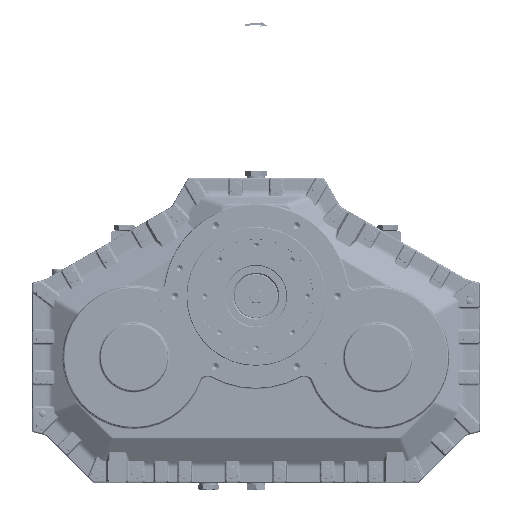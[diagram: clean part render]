
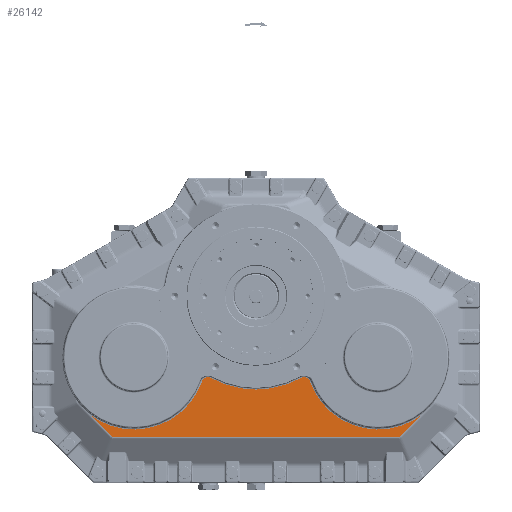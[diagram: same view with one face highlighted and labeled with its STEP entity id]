
A CAD part, top view. The second image highlights one B-rep face of the part: STEP entity #26142.
In plain terms, the highlighted planar face has unit normal (0, 0, 1).
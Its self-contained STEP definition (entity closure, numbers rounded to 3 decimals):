
#22770 = VERTEX_POINT ( 'NONE', #227842 ) ;
#26142 = ADVANCED_FACE ( 'NONE', ( #249591 ), #249737, .F. ) ;
#26146 = EDGE_LOOP ( 'NONE', ( #26151, #26171, #26225, #26233, #26242, #26248, #26261, #26322, #26332, #26334, #26199, #26204 ) ) ;
#26151 = ORIENTED_EDGE ( 'NONE', *, *, #26156, .T. ) ;
#26156 = EDGE_CURVE ( 'NONE', #187259, #26162, #249692, .T. ) ;
#26162 = VERTEX_POINT ( 'NONE', #249661 ) ;
#26171 = ORIENTED_EDGE ( 'NONE', *, *, #26173, .T. ) ;
#26173 = EDGE_CURVE ( 'NONE', #26162, #26221, #249786, .T. ) ;
#26197 = VERTEX_POINT ( 'NONE', #250042 ) ;
#26199 = ORIENTED_EDGE ( 'NONE', *, *, #26201, .T. ) ;
#26201 = EDGE_CURVE ( 'NONE', #26197, #187252, #250004, .T. ) ;
#26204 = ORIENTED_EDGE ( 'NONE', *, *, #187246, .T. ) ;
#26221 = VERTEX_POINT ( 'NONE', #250082 ) ;
#26225 = ORIENTED_EDGE ( 'NONE', *, *, #26227, .T. ) ;
#26227 = EDGE_CURVE ( 'NONE', #26221, #26231, #250274, .T. ) ;
#26231 = VERTEX_POINT ( 'NONE', #250266 ) ;
#26233 = ORIENTED_EDGE ( 'NONE', *, *, #26235, .T. ) ;
#26235 = EDGE_CURVE ( 'NONE', #26231, #26238, #250244, .T. ) ;
#26238 = VERTEX_POINT ( 'NONE', #250371 ) ;
#26242 = ORIENTED_EDGE ( 'NONE', *, *, #26244, .T. ) ;
#26244 = EDGE_CURVE ( 'NONE', #26238, #26245, #250355, .T. ) ;
#26245 = VERTEX_POINT ( 'NONE', #250343 ) ;
#26248 = ORIENTED_EDGE ( 'NONE', *, *, #26253, .T. ) ;
#26253 = EDGE_CURVE ( 'NONE', #26245, #26256, #250330, .T. ) ;
#26256 = VERTEX_POINT ( 'NONE', #250314 ) ;
#26261 = ORIENTED_EDGE ( 'NONE', *, *, #26265, .T. ) ;
#26265 = EDGE_CURVE ( 'NONE', #26256, #22770, #250303, .T. ) ;
#26322 = ORIENTED_EDGE ( 'NONE', *, *, #26323, .T. ) ;
#26323 = EDGE_CURVE ( 'NONE', #22770, #187404, #250820, .T. ) ;
#26332 = ORIENTED_EDGE ( 'NONE', *, *, #187398, .T. ) ;
#26334 = ORIENTED_EDGE ( 'NONE', *, *, #26337, .T. ) ;
#26337 = EDGE_CURVE ( 'NONE', #187412, #26197, #250890, .T. ) ;
#116287 = CARTESIAN_POINT ( 'NONE',  ( 213.306, -206.316, 35. ) ) ;
#116291 = CARTESIAN_POINT ( 'NONE',  ( 212.897, -206.725, 35. ) ) ;
#116298 = CARTESIAN_POINT ( 'NONE',  ( 212.439, -207.035, 35. ) ) ;
#116302 = CARTESIAN_POINT ( 'NONE',  ( 211.935, -207.244, 35. ) ) ;
#116324 =( BOUNDED_CURVE ( )  B_SPLINE_CURVE ( 3, ( #116302, #116298, #116291, #116287 ),
 .UNSPECIFIED., .F., .T. ) 
 B_SPLINE_CURVE_WITH_KNOTS ( ( 4, 4 ),
 ( 0., 0.204 ),
 .UNSPECIFIED. ) 
 CURVE ( )  GEOMETRIC_REPRESENTATION_ITEM ( )  RATIONAL_B_SPLINE_CURVE ( ( 1., 0.997, 0.997, 1. ) ) 
 REPRESENTATION_ITEM ( '' )  );
#116535 = CARTESIAN_POINT ( 'NONE',  ( 213.306, -206.316, 35. ) ) ;
#116539 = CARTESIAN_POINT ( 'NONE',  ( 211.935, -207.244, 35. ) ) ;
#117506 = CARTESIAN_POINT ( 'NONE',  ( -210.309, -207.558, 35. ) ) ;
#117508 = CARTESIAN_POINT ( 'NONE',  ( -210.887, -207.558, 35. ) ) ;
#117510 = CARTESIAN_POINT ( 'NONE',  ( -211.431, -207.453, 35. ) ) ;
#117512 = CARTESIAN_POINT ( 'NONE',  ( -211.935, -207.244, 35. ) ) ;
#117529 = CARTESIAN_POINT ( 'NONE',  ( -210.309, -207.558, 35. ) ) ;
#117533 = CARTESIAN_POINT ( 'NONE',  ( -211.935, -207.244, 35. ) ) ;
#117545 =( BOUNDED_CURVE ( )  B_SPLINE_CURVE ( 3, ( #117512, #117510, #117508, #117506 ),
 .UNSPECIFIED., .F., .T. ) 
 B_SPLINE_CURVE_WITH_KNOTS ( ( 4, 4 ),
 ( 0., 0.204 ),
 .UNSPECIFIED. ) 
 CURVE ( )  GEOMETRIC_REPRESENTATION_ITEM ( )  RATIONAL_B_SPLINE_CURVE ( ( 1., 0.997, 0.997, 1. ) ) 
 REPRESENTATION_ITEM ( '' )  );
#187246 = EDGE_CURVE ( 'NONE', #187252, #187259, #116324, .T. ) ;
#187252 = VERTEX_POINT ( 'NONE', #116539 ) ;
#187259 = VERTEX_POINT ( 'NONE', #116535 ) ;
#187398 = EDGE_CURVE ( 'NONE', #187404, #187412, #117545, .T. ) ;
#187404 = VERTEX_POINT ( 'NONE', #117533 ) ;
#187412 = VERTEX_POINT ( 'NONE', #117529 ) ;
#227842 = CARTESIAN_POINT ( 'NONE',  ( -213.306, -206.316, 35. ) ) ;
#249591 = FACE_OUTER_BOUND ( 'NONE', #26146, .T. ) ;
#249661 = CARTESIAN_POINT ( 'NONE',  ( 246.069, -173.553, 35. ) ) ;
#249684 = DIRECTION ( 'NONE',  ( 0.707, 0.707, 0. ) ) ;
#249686 = VECTOR ( 'NONE', #249684, 1000. ) ;
#249690 = CARTESIAN_POINT ( 'NONE',  ( 298.815, -120.807, 35. ) ) ;
#249692 = LINE ( 'NONE', #249690, #249686 ) ;
#249725 = DIRECTION ( 'NONE',  ( -1., 0., 0. ) ) ;
#249728 = DIRECTION ( 'NONE',  ( 0., 0., -1. ) ) ;
#249730 = CARTESIAN_POINT ( 'NONE',  ( -62.296, 240.304, 35. ) ) ;
#249732 = AXIS2_PLACEMENT_3D ( 'NONE', #249730, #249728, #249725 ) ;
#249737 = PLANE ( 'NONE',  #249732 ) ;
#249774 = DIRECTION ( 'NONE',  ( -1., 0., 0. ) ) ;
#249778 = DIRECTION ( 'NONE',  ( 0., 0., -1. ) ) ;
#249780 = CARTESIAN_POINT ( 'NONE',  ( 180., -90., 35. ) ) ;
#249783 = AXIS2_PLACEMENT_3D ( 'NONE', #249780, #249778, #249774 ) ;
#249786 = CIRCLE ( 'NONE', #249783, 106.519 ) ;
#249987 = CARTESIAN_POINT ( 'NONE',  ( 211.935, -207.244, 35. ) ) ;
#249989 = CARTESIAN_POINT ( 'NONE',  ( 211.431, -207.453, 35. ) ) ;
#249990 = CARTESIAN_POINT ( 'NONE',  ( 210.887, -207.558, 35. ) ) ;
#249992 = CARTESIAN_POINT ( 'NONE',  ( 210.309, -207.558, 35. ) ) ;
#250004 =( BOUNDED_CURVE ( )  B_SPLINE_CURVE ( 3, ( #249992, #249990, #249989, #249987 ),
 .UNSPECIFIED., .F., .T. ) 
 B_SPLINE_CURVE_WITH_KNOTS ( ( 4, 4 ),
 ( 6.079, 6.283 ),
 .UNSPECIFIED. ) 
 CURVE ( )  GEOMETRIC_REPRESENTATION_ITEM ( )  RATIONAL_B_SPLINE_CURVE ( ( 1., 0.997, 0.997, 1. ) ) 
 REPRESENTATION_ITEM ( '' )  );
#250042 = CARTESIAN_POINT ( 'NONE',  ( 210.309, -207.558, 35. ) ) ;
#250082 = CARTESIAN_POINT ( 'NONE',  ( 79.641, -125.699, 35. ) ) ;
#250234 = DIRECTION ( 'NONE',  ( -1., 0., 0. ) ) ;
#250236 = DIRECTION ( 'NONE',  ( 0., 0., -1. ) ) ;
#250239 = CARTESIAN_POINT ( 'NONE',  ( 0., 0., 35. ) ) ;
#250241 = AXIS2_PLACEMENT_3D ( 'NONE', #250239, #250236, #250234 ) ;
#250244 = CIRCLE ( 'NONE', #250241, 137.519 ) ;
#250266 = CARTESIAN_POINT ( 'NONE',  ( 66.148, -120.565, 35. ) ) ;
#250269 = DIRECTION ( 'NONE',  ( -1., 0., 0. ) ) ;
#250270 = DIRECTION ( 'NONE',  ( 0., 0., 1. ) ) ;
#250271 = CARTESIAN_POINT ( 'NONE',  ( 70.709, -128.877, 35. ) ) ;
#250272 = AXIS2_PLACEMENT_3D ( 'NONE', #250271, #250270, #250269 ) ;
#250274 = CIRCLE ( 'NONE', #250272, 9.481 ) ;
#250297 = DIRECTION ( 'NONE',  ( 0.707, -0.707, 0. ) ) ;
#250299 = VECTOR ( 'NONE', #250297, 1000. ) ;
#250301 = CARTESIAN_POINT ( 'NONE',  ( -361.112, -58.511, 35. ) ) ;
#250303 = LINE ( 'NONE', #250301, #250299 ) ;
#250314 = CARTESIAN_POINT ( 'NONE',  ( -246.069, -173.553, 35. ) ) ;
#250319 = DIRECTION ( 'NONE',  ( -1., 0., 0. ) ) ;
#250321 = DIRECTION ( 'NONE',  ( 0., 0., -1. ) ) ;
#250323 = CARTESIAN_POINT ( 'NONE',  ( -180., -90., 35. ) ) ;
#250326 = AXIS2_PLACEMENT_3D ( 'NONE', #250323, #250321, #250319 ) ;
#250330 = CIRCLE ( 'NONE', #250326, 106.519 ) ;
#250343 = CARTESIAN_POINT ( 'NONE',  ( -79.641, -125.699, 35. ) ) ;
#250345 = DIRECTION ( 'NONE',  ( -1., 0., 0. ) ) ;
#250349 = DIRECTION ( 'NONE',  ( 0., 0., 1. ) ) ;
#250351 = CARTESIAN_POINT ( 'NONE',  ( -70.709, -128.877, 35. ) ) ;
#250353 = AXIS2_PLACEMENT_3D ( 'NONE', #250351, #250349, #250345 ) ;
#250355 = CIRCLE ( 'NONE', #250353, 9.481 ) ;
#250371 = CARTESIAN_POINT ( 'NONE',  ( -66.148, -120.565, 35. ) ) ;
#250786 = CARTESIAN_POINT ( 'NONE',  ( -211.935, -207.244, 35. ) ) ;
#250791 = CARTESIAN_POINT ( 'NONE',  ( -212.439, -207.035, 35. ) ) ;
#250793 = CARTESIAN_POINT ( 'NONE',  ( -212.897, -206.725, 35. ) ) ;
#250795 = CARTESIAN_POINT ( 'NONE',  ( -213.306, -206.316, 35. ) ) ;
#250820 =( BOUNDED_CURVE ( )  B_SPLINE_CURVE ( 3, ( #250795, #250793, #250791, #250786 ),
 .UNSPECIFIED., .F., .T. ) 
 B_SPLINE_CURVE_WITH_KNOTS ( ( 4, 4 ),
 ( 6.079, 6.283 ),
 .UNSPECIFIED. ) 
 CURVE ( )  GEOMETRIC_REPRESENTATION_ITEM ( )  RATIONAL_B_SPLINE_CURVE ( ( 1., 0.997, 0.997, 1. ) ) 
 REPRESENTATION_ITEM ( '' )  );
#250885 = DIRECTION ( 'NONE',  ( 1., 0., 0. ) ) ;
#250887 = VECTOR ( 'NONE', #250885, 1000. ) ;
#250889 = CARTESIAN_POINT ( 'NONE',  ( -62.296, -207.558, 35. ) ) ;
#250890 = LINE ( 'NONE', #250889, #250887 ) ;
